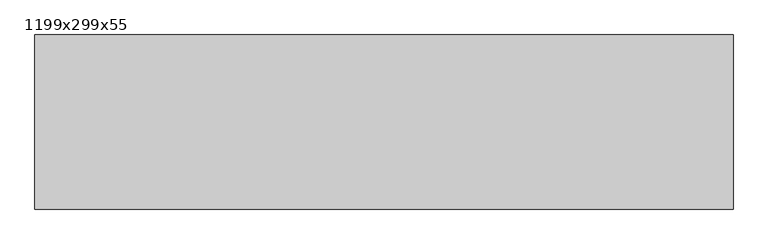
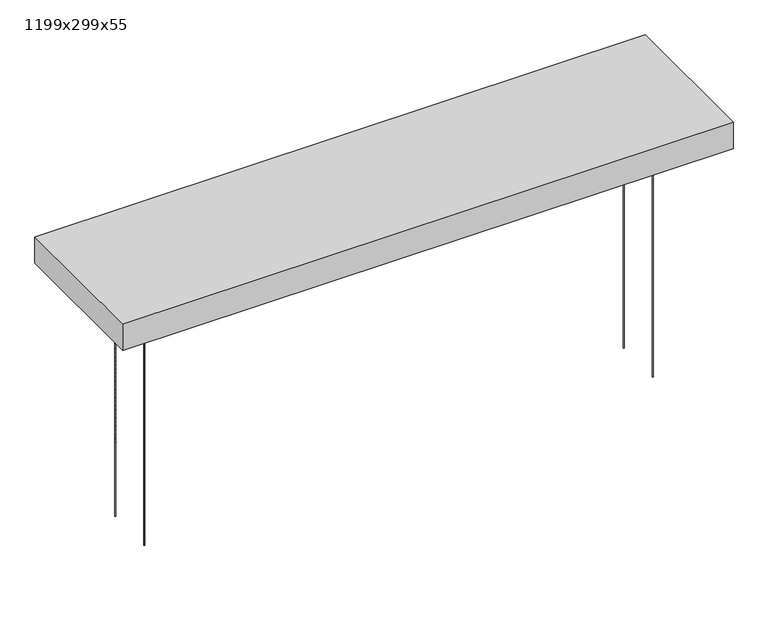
"""IFC4 building model written with IfcOpenShell, lengths in millimetres: proxy geometry, Texaa_Plafond respirant_Strato_Panneaux absorbant : 1199x299x55."""

import ifcopenshell
import ifcopenshell.guid

model = None  # the IFC model being written
_history = None  # IfcOwnerHistory: only IFC2X3 demands one
_inside = {}  # id of a spatial element -> (the spatial element, [elements in it])
_under = {}  # id of a project, library or spatial element -> (it, [spatial elements below it])
_declared = {}  # id of a project -> (the project, [libraries it declares])
_typed = {}  # id of a type object -> (the type object, [elements of that type])
_made_of = {}  # id of a material, layer set ... -> (it, [elements and type objects made of it])


def new_model(schema):
    """Start an empty IFC model of exactly this schema.

    Asked for "IFC4X3", IfcOpenShell would pick the latest addendum, in which some entities
    have other attributes; the version numbers below select the first issue.
    IFC2X3 requires an IfcOwnerHistory on every rooted entity: one is made here for all.
    """
    global model, _history
    if schema == "IFC4X3":
        model = ifcopenshell.file(schema_version=(4, 3, 0, 0))
    else:
        model = ifcopenshell.file(schema=schema)
    _inside.clear()
    _under.clear()
    _declared.clear()
    _typed.clear()
    _made_of.clear()
    _history = None
    if model.schema == "IFC2X3":
        org = make("IfcOrganization", Name="unknown")
        user = make(
            "IfcPersonAndOrganization",
            ThePerson=make("IfcPerson", FamilyName="unknown"),
            TheOrganization=org,
        )
        app = make(
            "IfcApplication",
            ApplicationDeveloper=org,
            Version="unknown",
            ApplicationFullName="unknown",
            ApplicationIdentifier="unknown",
        )
        _history = make(
            "IfcOwnerHistory",
            OwningUser=user,
            OwningApplication=app,
            ChangeAction="ADDED",
            CreationDate=0,
        )
    return model


def make(cls, **values):
    """One entity of the class cls with the attributes given. An attribute that is None is left unset."""
    return model.create_entity(
        cls, **{name: value for name, value in values.items() if value is not None}
    )


def rooted(cls, **values):
    """An entity with a GlobalId (a new one), such as an element, a storey or a relation."""
    return make(cls, GlobalId=ifcopenshell.guid.new(), OwnerHistory=_history, **values)


def si_unit(unit_type, name, prefix=None):
    """IfcSIUnit, for example si_unit("LENGTHUNIT", "METRE", prefix="MILLI")."""
    return make("IfcSIUnit", UnitType=unit_type, Prefix=prefix, Name=name)


def assignment(units):
    """IfcUnitAssignment: the units of a project."""
    return None if units is None else make("IfcUnitAssignment", Units=units)


def point(xyz):
    """IfcCartesianPoint."""
    return None if xyz is None else make("IfcCartesianPoint", Coordinates=xyz)


def direction(xyz):
    """IfcDirection."""
    return None if xyz is None else make("IfcDirection", DirectionRatios=xyz)


def frame(location, z_axis=None, x_axis=None):
    """IfcAxis2Placement3D, a coordinate frame: its origin and axes. An axis left out is left unset."""
    return make(
        "IfcAxis2Placement3D",
        Location=point(location),
        Axis=direction(z_axis),
        RefDirection=direction(x_axis),
    )


def frame_2d(location, x_axis=None):
    """IfcAxis2Placement2D, a coordinate frame in the plane: its origin and x axis."""
    return make(
        "IfcAxis2Placement2D", Location=point(location), RefDirection=direction(x_axis)
    )


def origin():
    """The frame at (0, 0, 0) with its axes left unset."""
    return frame((0.0, 0.0, 0.0))


def origin_with_axes():
    """The frame at (0, 0, 0) with the z axis (0, 0, 1) and the x axis (1, 0, 0) written out."""
    return frame((0.0, 0.0, 0.0), z_axis=(0.0, 0.0, 1.0), x_axis=(1.0, 0.0, 0.0))


def place(relative_to, where):
    """IfcLocalPlacement: puts the frame where relative to a parent placement (None: the world)."""
    return make(
        "IfcLocalPlacement", PlacementRelTo=relative_to, RelativePlacement=where
    )


def context(
    kind, dimensions, precision=None, world=None, true_north=None, identifier=None
):
    """IfcGeometricRepresentationContext, for example the 3D "Model" context."""
    return make(
        "IfcGeometricRepresentationContext",
        ContextIdentifier=identifier,
        ContextType=kind,
        CoordinateSpaceDimension=dimensions,
        Precision=precision,
        WorldCoordinateSystem=world,
        TrueNorth=true_north,
    )


def project(units=None, contexts=None):
    """IfcProject with its units and contexts."""
    return rooted(
        "IfcProject",
        Name="project",
        RepresentationContexts=contexts,
        UnitsInContext=assignment(units),
    )


def spatial(cls, under=None, at=None, **own):
    """A site, building, storey or space (cls), placed at a placement, below another one or the project."""
    s = rooted(cls, ObjectPlacement=at, **own)
    if under is not None:
        _under.setdefault(under.id(), (under, []))[1].append(s)
    return s


def polyline(points):
    """IfcPolyline through the points."""
    return make("IfcPolyline", Points=[point(p) for p in points])


def circle_curve(where, radius):
    """IfcCircle in the frame where."""
    return make("IfcCircle", Position=where, Radius=radius)


def trimmed(basis, trim1, trim2, sense, master):
    """IfcTrimmedCurve: the piece of a basis curve between two trims."""
    return make(
        "IfcTrimmedCurve",
        BasisCurve=basis,
        Trim1=trim1,
        Trim2=trim2,
        SenseAgreement=sense,
        MasterRepresentation=master,
    )


def segment(curve, same_sense, transition):
    """IfcCompositeCurveSegment."""
    return make(
        "IfcCompositeCurveSegment",
        Transition=transition,
        SameSense=same_sense,
        ParentCurve=curve,
    )


def composite_curve(segments, self_intersect=None):
    """IfcCompositeCurve: segments joined end to end."""
    return make("IfcCompositeCurve", Segments=segments, SelfIntersect=self_intersect)


def outline(outer, holes=None, kind="AREA"):
    """IfcArbitraryClosedProfileDef: a profile drawn as a closed curve; with holes, ...WithVoids."""
    if holes is None:
        return make("IfcArbitraryClosedProfileDef", ProfileType=kind, OuterCurve=outer)
    return make(
        "IfcArbitraryProfileDefWithVoids",
        ProfileType=kind,
        OuterCurve=outer,
        InnerCurves=holes,
    )


def extrude(swept, where, along, depth):
    """IfcExtrudedAreaSolid: the profile swept, set in the frame where, extruded along a direction by depth."""
    return make(
        "IfcExtrudedAreaSolid",
        SweptArea=swept,
        Position=where,
        ExtrudedDirection=direction(along),
        Depth=depth,
    )


def faces_of(points, faces, orient=None, outer=None):
    """IfcFace entities. A face is a list of loops; a loop is a list of indices into points, from 0.

    orient and outer hold one flag for each loop. By default every Orientation is true, the
    first loop of a face is its IfcFaceOuterBound and the others are IfcFaceBound.
    """
    made = []
    for i, loops in enumerate(faces):
        bounds = []
        for j, loop in enumerate(loops):
            is_outer = j == 0 if outer is None else outer[i][j]
            bounds.append(
                make(
                    "IfcFaceOuterBound" if is_outer else "IfcFaceBound",
                    Bound=make("IfcPolyLoop", Polygon=[points[k] for k in loop]),
                    Orientation=True if orient is None else orient[i][j],
                )
            )
        made.append(make("IfcFace", Bounds=bounds))
    return made


def faceted_brep(points, faces, orient=None, outer=None, voids=None):
    """IfcFacetedBrep: a solid bounded by flat faces; with voids (closed shells), ...WithVoids."""
    shared = [point(p) for p in points]
    hull = make("IfcClosedShell", CfsFaces=faces_of(shared, faces, orient, outer))
    if voids is None:
        return make("IfcFacetedBrep", Outer=hull)
    return make(
        "IfcFacetedBrepWithVoids",
        Outer=hull,
        Voids=[
            make(cls, CfsFaces=faces_of(shared, fs, o, b)) for cls, fs, o, b in voids
        ],
    )


def shape(context_of_items, identifier, shape_type, items):
    """IfcShapeRepresentation: the items that make up one representation, for example the "Body"."""
    return make(
        "IfcShapeRepresentation",
        ContextOfItems=context_of_items,
        RepresentationIdentifier=identifier,
        RepresentationType=shape_type,
        Items=items,
    )


def source(mapping_origin, context_of_items, identifier, shape_type, items):
    """IfcRepresentationMap: a shape defined once, which mapped items show again and again."""
    return make(
        "IfcRepresentationMap",
        MappingOrigin=mapping_origin,
        MappedRepresentation=shape(context_of_items, identifier, shape_type, items),
    )


def transform(
    local_origin,
    x_axis=None,
    y_axis=None,
    z_axis=None,
    scale=None,
    scale2=None,
    scale3=None,
    uniform=True,
):
    """IfcCartesianTransformationOperator3D, or its non-uniform kind. x_axis, y_axis, z_axis: its Axis1, 2, 3."""
    if uniform:
        return make(
            "IfcCartesianTransformationOperator3D",
            Axis1=direction(x_axis),
            Axis2=direction(y_axis),
            LocalOrigin=point(local_origin),
            Scale=scale,
            Axis3=direction(z_axis),
        )
    return make(
        "IfcCartesianTransformationOperator3DnonUniform",
        Axis1=direction(x_axis),
        Axis2=direction(y_axis),
        LocalOrigin=point(local_origin),
        Scale=scale,
        Axis3=direction(z_axis),
        Scale2=scale2,
        Scale3=scale3,
    )


def mapped(mapping_source, mapping_target):
    """IfcMappedItem: shows the shape of a source again, moved by a transform."""
    return make(
        "IfcMappedItem", MappingSource=mapping_source, MappingTarget=mapping_target
    )


def made_of(thing, what):
    """Note that an element or type object is made of a material, layer set ...; save() writes the relation."""
    if what is not None:
        _made_of.setdefault(what.id(), (what, []))[1].append(thing)
    return thing


def element(
    cls,
    number,
    at=None,
    inside=None,
    cuts=None,
    type_object=None,
    material=None,
    context=None,
    identifier="Body",
    shape_type=None,
    held_by="IfcProductDefinitionShape",
    body=None,
    shapes=None,
    **own,
):
    """One element of the class cls, such as IfcWall. Its Tag is "e" and its number.

    at: its placement. inside: the storey or other place that contains it. cuts: it is an
    opening in that element (IfcRelVoidsElement). A single representation is given by context,
    identifier, shape_type and body (its items); several are given by shapes. held_by: the class
    of the entity that holds the representations. save() writes the other relations.
    """
    e = rooted(cls, Tag="e%d" % number, ObjectPlacement=at, **own)
    if body is not None:
        shapes = [shape(context, identifier, shape_type, body)]
    if shapes is not None:
        e.Representation = make(held_by, Representations=shapes)
    if inside is not None:
        _inside.setdefault(inside.id(), (inside, []))[1].append(e)
    if cuts is not None:
        rooted(
            "IfcRelVoidsElement", RelatingBuildingElement=cuts, RelatedOpeningElement=e
        )
    if type_object is not None:
        _typed.setdefault(type_object.id(), (type_object, []))[1].append(e)
    return made_of(e, material)


def aggregate(whole, parts):
    """IfcRelAggregates: a whole, such as a stair, and the parts it consists of."""
    return rooted("IfcRelAggregates", RelatingObject=whole, RelatedObjects=parts)


def save(model, path):
    """Write the relations noted so far, then the file.

    IfcRelAggregates (storeys below a building ...), IfcRelContainedInSpatialStructure (elements
    in a storey), IfcRelDefinesByType, IfcRelAssociatesMaterial and IfcRelDeclares: one each for
    every whole, place, type object, material and project.
    """
    for whole, parts in _under.values():
        aggregate(whole, parts)
    for where, things in _inside.values():
        rooted(
            "IfcRelContainedInSpatialStructure",
            RelatedElements=things,
            RelatingStructure=where,
        )
    for kind, things in _typed.values():
        rooted("IfcRelDefinesByType", RelatedObjects=things, RelatingType=kind)
    for what, things in _made_of.values():
        rooted("IfcRelAssociatesMaterial", RelatedObjects=things, RelatingMaterial=what)
    for by, libraries in _declared.values():
        rooted("IfcRelDeclares", RelatingContext=by, RelatedDefinitions=libraries)
    model.write(path)


def proxy_1199x299x55_9eddac71(model_context):
    return source(origin(), model_context, "Body", "SolidModel", [
        extrude(outline(composite_curve([segment(trimmed(circle_curve(frame_2d((-499.5, -49.5)), 0.75), [point((-500.25, -49.5))], [point((-498.75, -49.5))], False, "CARTESIAN"), True, "CONTINUOUS"), segment(trimmed(circle_curve(frame_2d((-499.5, -49.5)), 0.75), [point((-498.75, -49.5))], [point((-500.25, -49.5))], False, "CARTESIAN"), True, "CONTINUOUS")], self_intersect=False)), origin_with_axes(), (0.0, 0.0, 1.0), 500.0),
        extrude(outline(composite_curve([segment(trimmed(circle_curve(frame_2d((499.5, -49.5)), 0.75), [point((498.75, -49.5))], [point((500.25, -49.5))], False, "CARTESIAN"), True, "CONTINUOUS"), segment(trimmed(circle_curve(frame_2d((499.5, -49.5)), 0.75), [point((500.25, -49.5))], [point((498.75, -49.5))], False, "CARTESIAN"), True, "CONTINUOUS")], self_intersect=False)), origin_with_axes(), (0.0, 0.0, 1.0), 500.0),
        extrude(outline(composite_curve([segment(trimmed(circle_curve(frame_2d((499.5, 49.5)), 0.75), [point((498.75, 49.5))], [point((500.25, 49.5))], False, "CARTESIAN"), True, "CONTINUOUS"), segment(trimmed(circle_curve(frame_2d((499.5, 49.5)), 0.75), [point((500.25, 49.5))], [point((498.75, 49.5))], False, "CARTESIAN"), True, "CONTINUOUS")], self_intersect=False)), origin_with_axes(), (0.0, 0.0, 1.0), 500.0),
        extrude(outline(composite_curve([segment(trimmed(circle_curve(frame_2d((-499.5, 49.5)), 0.75), [point((-500.25, 49.5))], [point((-498.75, 49.5))], False, "CARTESIAN"), True, "CONTINUOUS"), segment(trimmed(circle_curve(frame_2d((-499.5, 49.5)), 0.75), [point((-498.75, 49.5))], [point((-500.25, 49.5))], False, "CARTESIAN"), True, "CONTINUOUS")], self_intersect=False)), origin_with_axes(), (0.0, 0.0, 1.0), 500.0),
        extrude(outline(polyline([(-598.5, -148.5), (-598.5, 148.5), (598.5, 148.5), (598.5, -148.5), (-598.5, -148.5)])), frame((0.0, 0.0, 501.0), z_axis=(0.0, 0.0, 1.0), x_axis=(1.0, 0.0, 0.0)), (0.0, 0.0, 1.0), 53.0),
        faceted_brep([(-599.5, -149.5, 555.0), (599.5, -149.5, 555.0), (599.5, 149.5, 555.0), (-599.5, 149.5, 555.0), (-599.5, -149.5, 500.0), (-599.5, 149.5, 500.0), (599.5, 149.5, 500.0), (599.5, -149.5, 500.0), (-549.5, 99.5, 500.0), (-549.5, -99.5, 500.0), (549.5, -99.5, 500.0), (549.5, 99.5, 500.0), (549.5, 99.5, 501.0), (-549.5, 99.5, 501.0), (549.5, -99.5, 501.0), (-549.5, -99.5, 501.0), (-598.5, -148.5, 554.0), (-598.5, 148.5, 554.0), (598.5, 148.5, 554.0), (598.5, -148.5, 554.0), (-598.5, -148.5, 501.0), (598.5, -148.5, 501.0), (598.5, 148.5, 501.0), (-598.5, 148.5, 501.0)], [[[0, 1, 2, 3]], [[4, 5, 6, 7], [8, 9, 10, 11]], [[3, 5, 4, 0]], [[2, 6, 5, 3]], [[1, 7, 6, 2]], [[0, 4, 7, 1]], [[8, 11, 12, 13]], [[11, 10, 14, 12]], [[10, 9, 15, 14]], [[13, 15, 9, 8]], [[16, 17, 18, 19]], [[20, 21, 22, 23], [12, 14, 15, 13]], [[16, 20, 23, 17]], [[17, 23, 22, 18]], [[18, 22, 21, 19]], [[19, 21, 20, 16]]]),
    ])


if __name__ == "__main__":
    model = new_model("IFC4")
    model_context = context("Model", 3, world=origin())
    ifc_project = project(units=[si_unit("LENGTHUNIT", "METRE", prefix="MILLI")], contexts=[model_context])
    site = spatial("IfcSite", under=ifc_project)
    building = spatial("IfcBuilding", under=site)
    placement = place(None, origin())
    proxy_1199x299x55_shape = proxy_1199x299x55_9eddac71(model_context)
    element("IfcBuildingElementProxy", 1, Name="Texaa_Plafond respirant_Strato_Panneaux absorbant : 1199x299x55", ObjectType="Texaa_Plafond respirant_Strato_Panneaux absorbant : 1199x299x55", at=placement, inside=building, context=model_context, shape_type="MappedRepresentation", body=[
        mapped(proxy_1199x299x55_shape, transform((0.0, 0.0, 0.0), x_axis=(1.0, 0.0, 0.0), y_axis=(0.0, 1.0, 0.0), z_axis=(0.0, 0.0, 1.0))),
    ])
    save(model, "model.ifc")
